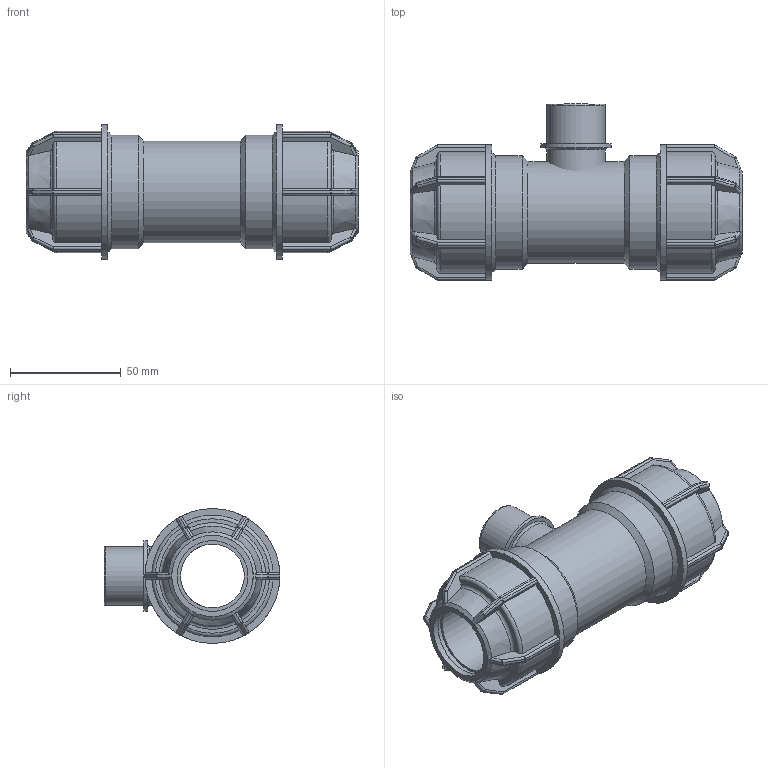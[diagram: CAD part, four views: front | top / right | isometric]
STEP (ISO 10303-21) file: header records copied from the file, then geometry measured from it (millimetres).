
FILE_DESCRIPTION(/* description */ ('PLASSON L.14 TEE MALE ADAPTOR (SILVER) 32-3/4"-32'),/* implementation_level */ '2;1');
FILE_NAME(/* name */ 'C:\Dropbox\KIMPROJECTS-Inventor\99-16-3568-Processing\Silver+MF ISRAEL\148400\148400032007.ipt.stp',/* time_stamp */ '2018-04-09T13:05:23+03:00',/* author */ ('KIM'),/* organization */ (''),/* preprocessor_version */ 'ST-DEVELOPER v15.6',/* originating_system */ 'Autodesk Inventor 2015',/* authorisation */ '');
FILE_SCHEMA (('AUTOMOTIVE_DESIGN { 1 0 10303 214 3 1 1 }'));
Length unit declared in the file: millimetre
Products named in the file (1): 148400032007
Bounding box: 150 x 79.5 x 61 mm (x, y, z)
Volume: 180110.9 mm3; surface area: 52382.3 mm2
Topology: 2 solids, 2 shells, 415 faces, 999 edges, 573 vertices
Faces by surface type: plane 195, cylinder 124, sphere 48, torus 30, cone 18
Full cylindrical faces by diameter (mm): 25.6 x2, 26.441 x2, 28.8 x1, 31.729 x1, 32 x4, 46.08 x1, 51.2 x2, 61 x2
Entity records: 12127 total; most frequent: CARTESIAN_POINT 3235, DIRECTION 1868, ORIENTED_EDGE 1822, EDGE_CURVE 911, AXIS2_PLACEMENT_3D 754, VERTEX_POINT 539, EDGE_LOOP 450, FACE_OUTER_BOUND 410
